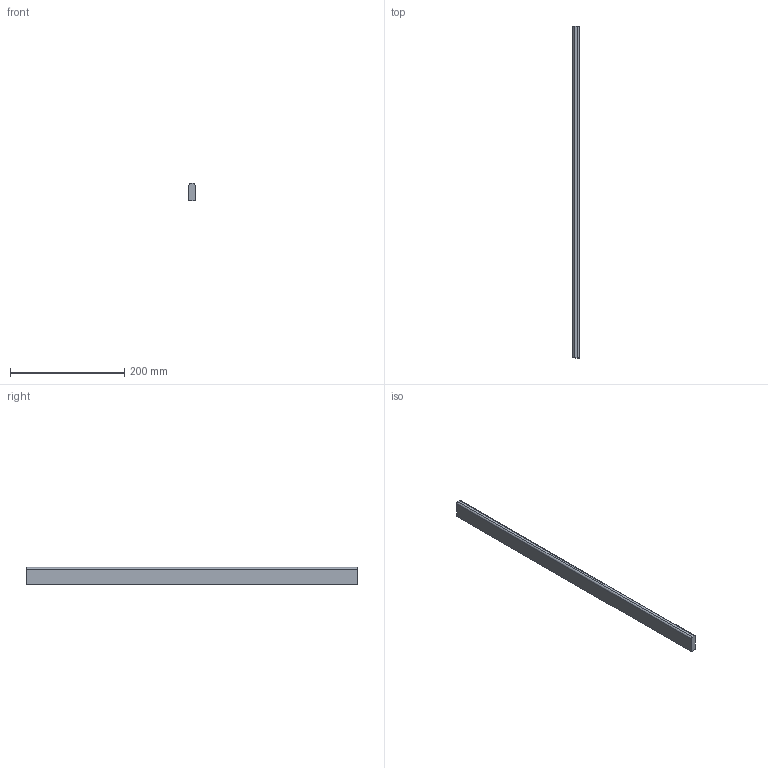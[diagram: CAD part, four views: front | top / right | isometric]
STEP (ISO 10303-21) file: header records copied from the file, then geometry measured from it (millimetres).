
FILE_DESCRIPTION (( 'STEP AP214' ), '1' );
FILE_NAME ('_Seitenreling_SP60701200_RL580.step', '2010-09-06T14:51:41', ( 'grass' ), ( '' ), 'SwSTEP 2.0', 'SolidWorks 2010', '' );
FILE_SCHEMA (( 'AUTOMOTIVE_DESIGN' ));
Length unit declared in the file: millimetre
Products named in the file (1): _Seitenreling_SP60701200_RL580
Bounding box: 10.5 x 580 x 30 mm (x, y, z)
Volume: 180459.6 mm3; surface area: 46108.6 mm2
Topology: 1 solids, 1 shells, 8 faces, 18 edges, 12 vertices
Faces by surface type: plane 6, cylinder 2
Entity records: 260 total; most frequent: DIRECTION 40, CARTESIAN_POINT 39, ORIENTED_EDGE 36, EDGE_CURVE 18, LINE 14, VECTOR 14, AXIS2_PLACEMENT_3D 13, VERTEX_POINT 12
